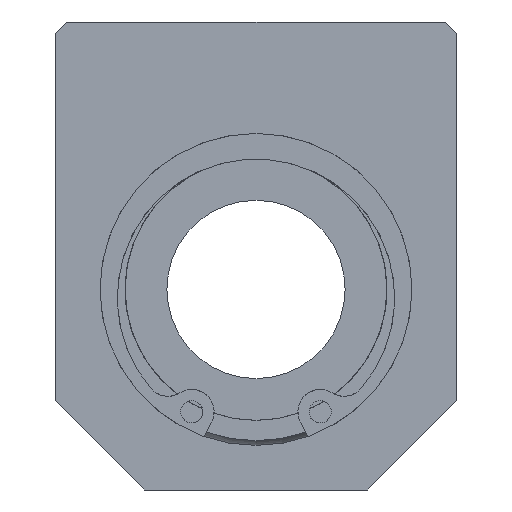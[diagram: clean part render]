
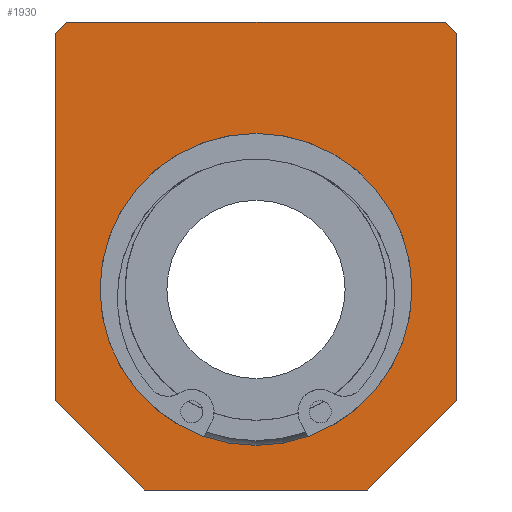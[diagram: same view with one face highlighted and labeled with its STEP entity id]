
A CAD part, left-side view. The second image highlights one B-rep face of the part: STEP entity #1930.
In plain terms, the highlighted planar face has unit normal (-1, 0, 0).
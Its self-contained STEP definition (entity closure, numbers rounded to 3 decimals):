
#1832=CARTESIAN_POINT('',(0.0,-17.,24.0));
#1833=VERTEX_POINT('',#1832);
#1840=CARTESIAN_POINT('',(0.0,-18.,23.));
#1841=VERTEX_POINT('',#1840);
#1842=CARTESIAN_POINT('',(0.0,-17.,24.0));
#1843=DIRECTION('',(0.0,-0.707,-0.707));
#1844=VECTOR('',#1843,1.414);
#1845=LINE('',#1842,#1844);
#1846=EDGE_CURVE('',#1833,#1841,#1845,.T.);
#1857=CARTESIAN_POINT('',(0.0,0.0,3.));
#1858=DIRECTION('',(1.0,0.0,0.0));
#1859=DIRECTION('',(0.0,0.0,-1.0));
#1860=AXIS2_PLACEMENT_3D('',#1857,#1858,#1859);
#1861=PLANE('',#1860);
#1862=ORIENTED_EDGE('',*,*,#1846,.F.);
#1863=CARTESIAN_POINT('',(0.0,17.,24.0));
#1864=VERTEX_POINT('',#1863);
#1865=CARTESIAN_POINT('',(0.0,-17.,24.0));
#1866=DIRECTION('',(0.0,1.0,0.0));
#1867=VECTOR('',#1866,34.);
#1868=LINE('',#1865,#1867);
#1869=EDGE_CURVE('',#1833,#1864,#1868,.T.);
#1870=ORIENTED_EDGE('',*,*,#1869,.T.);
#1871=CARTESIAN_POINT('',(0.0,18.,23.0));
#1872=VERTEX_POINT('',#1871);
#1873=CARTESIAN_POINT('',(0.0,18.,23.0));
#1874=DIRECTION('',(0.0,-0.707,0.707));
#1875=VECTOR('',#1874,1.414);
#1876=LINE('',#1873,#1875);
#1877=EDGE_CURVE('',#1872,#1864,#1876,.T.);
#1878=ORIENTED_EDGE('',*,*,#1877,.F.);
#1879=CARTESIAN_POINT('',(0.0,18.0,-10.));
#1880=VERTEX_POINT('',#1879);
#1881=CARTESIAN_POINT('',(0.0,18.,23.0));
#1882=DIRECTION('',(0.0,0.0,-1.0));
#1883=VECTOR('',#1882,33.0);
#1884=LINE('',#1881,#1883);
#1885=EDGE_CURVE('',#1872,#1880,#1884,.T.);
#1886=ORIENTED_EDGE('',*,*,#1885,.T.);
#1887=CARTESIAN_POINT('',(0.0,10.,-18.));
#1888=VERTEX_POINT('',#1887);
#1889=CARTESIAN_POINT('',(0.0,10.,-18.));
#1890=DIRECTION('',(0.0,0.707,0.707));
#1891=VECTOR('',#1890,11.314);
#1892=LINE('',#1889,#1891);
#1893=EDGE_CURVE('',#1888,#1880,#1892,.T.);
#1894=ORIENTED_EDGE('',*,*,#1893,.F.);
#1895=CARTESIAN_POINT('',(0.0,-10.,-18.));
#1896=VERTEX_POINT('',#1895);
#1897=CARTESIAN_POINT('',(0.0,10.,-18.));
#1898=DIRECTION('',(0.0,-1.0,0.0));
#1899=VECTOR('',#1898,20.);
#1900=LINE('',#1897,#1899);
#1901=EDGE_CURVE('',#1888,#1896,#1900,.T.);
#1902=ORIENTED_EDGE('',*,*,#1901,.T.);
#1903=CARTESIAN_POINT('',(0.0,-18.0,-10.));
#1904=VERTEX_POINT('',#1903);
#1905=CARTESIAN_POINT('',(0.0,-18.0,-10.));
#1906=DIRECTION('',(0.0,0.707,-0.707));
#1907=VECTOR('',#1906,11.314);
#1908=LINE('',#1905,#1907);
#1909=EDGE_CURVE('',#1904,#1896,#1908,.T.);
#1910=ORIENTED_EDGE('',*,*,#1909,.F.);
#1911=CARTESIAN_POINT('',(0.0,-18.0,-10.));
#1912=DIRECTION('',(0.0,0.0,1.0));
#1913=VECTOR('',#1912,33.);
#1914=LINE('',#1911,#1913);
#1915=EDGE_CURVE('',#1904,#1841,#1914,.T.);
#1916=ORIENTED_EDGE('',*,*,#1915,.T.);
#1917=EDGE_LOOP('',(#1862,#1870,#1878,#1886,#1894,#1902,#1910,#1916));
#1918=FACE_OUTER_BOUND('',#1917,.T.);
#1919=CARTESIAN_POINT('',(0.0,14.,0.));
#1920=VERTEX_POINT('',#1919);
#1921=CARTESIAN_POINT('',(0.0,0.0,0.0));
#1922=DIRECTION('',(1.0,0.0,0.0));
#1923=DIRECTION('',(0.0,-1.0,0.0));
#1924=AXIS2_PLACEMENT_3D('',#1921,#1922,#1923);
#1925=CIRCLE('',#1924,14.);
#1926=EDGE_CURVE('',#1920,#1920,#1925,.T.);
#1927=ORIENTED_EDGE('',*,*,#1926,.T.);
#1928=EDGE_LOOP('',(#1927));
#1929=FACE_BOUND('',#1928,.T.);
#1930=ADVANCED_FACE('',(#1918,#1929),#1861,.F.);
